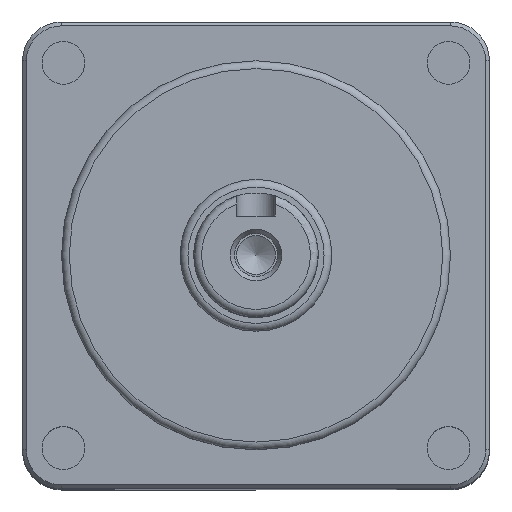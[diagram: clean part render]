
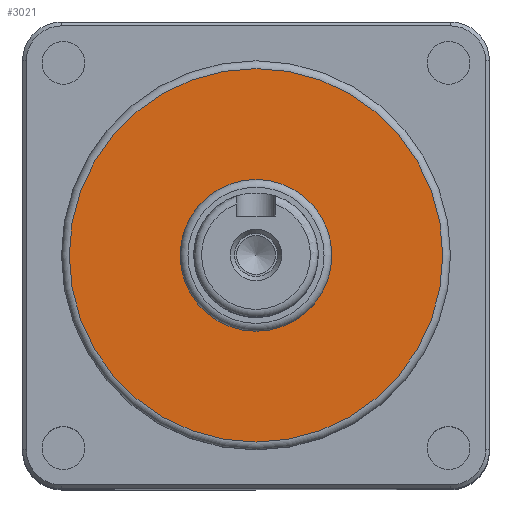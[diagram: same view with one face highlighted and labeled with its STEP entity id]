
A CAD part, top view. The second image highlights one B-rep face of the part: STEP entity #3021.
In plain terms, the highlighted planar face has unit normal (0, 0, 1).
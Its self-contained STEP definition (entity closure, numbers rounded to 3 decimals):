
#2389=CARTESIAN_POINT('',(-9.75,0.,-1.0));
#2390=VERTEX_POINT('',#2389);
#2391=CARTESIAN_POINT('',(0.0,0.0,-1.0));
#2392=DIRECTION('',(0.0,0.0,1.0));
#2393=DIRECTION('',(1.0,0.0,0.0));
#2394=AXIS2_PLACEMENT_3D('',#2391,#2392,#2393);
#2395=CIRCLE('',#2394,9.75);
#2396=EDGE_CURVE('',#2390,#2390,#2395,.T.);
#2998=CARTESIAN_POINT('',(-24.0,0.,-1.0));
#2999=VERTEX_POINT('',#2998);
#3000=CARTESIAN_POINT('',(0.0,0.0,-1.0));
#3001=DIRECTION('',(0.0,0.0,-1.0));
#3002=DIRECTION('',(1.0,0.0,0.0));
#3003=AXIS2_PLACEMENT_3D('',#3000,#3001,#3002);
#3004=CIRCLE('',#3003,24.0);
#3005=EDGE_CURVE('',#2999,#2999,#3004,.T.);
#3010=CARTESIAN_POINT('',(0.0,0.0,-1.0));
#3011=DIRECTION('',(0.0,0.0,1.0));
#3012=DIRECTION('',(1.0,0.0,0.0));
#3013=AXIS2_PLACEMENT_3D('',#3010,#3011,#3012);
#3014=PLANE('',#3013);
#3015=ORIENTED_EDGE('',*,*,#3005,.F.);
#3016=EDGE_LOOP('',(#3015));
#3017=FACE_OUTER_BOUND('',#3016,.T.);
#3018=ORIENTED_EDGE('',*,*,#2396,.F.);
#3019=EDGE_LOOP('',(#3018));
#3020=FACE_BOUND('',#3019,.T.);
#3021=ADVANCED_FACE('',(#3017,#3020),#3014,.T.);
